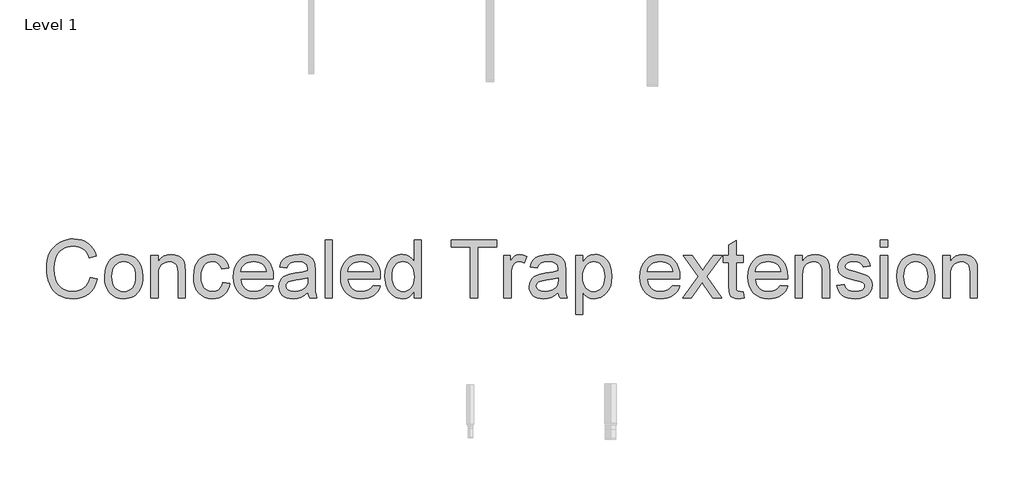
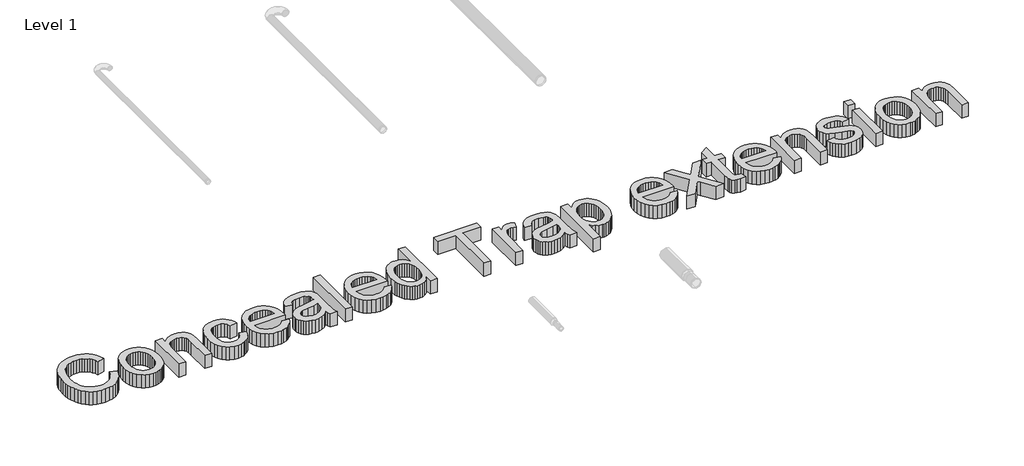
# One storey, part 28 of 29: 1 proxy.
"""IFC4 building model written with IfcOpenShell, lengths in millimetres."""

from ifc_helpers import new_model, si_unit, origin, origin_with_axes, place, context, project, spatial, polyline, outline, extrude, element, save

model = new_model("IFC4")

# Units and contexts
model_context = context("Model", 3, world=origin())
ifc_project = project(units=[si_unit("LENGTHUNIT", "METRE", prefix="MILLI")], contexts=[model_context])

# Site, building, storey
site = spatial("IfcSite", under=ifc_project)
building = spatial("IfcBuilding", under=site)
storey = spatial("IfcBuildingStorey", under=building, Name="Level 1", Elevation=0.0)

# Proxy
placement = place(None, origin())
element("IfcBuildingElementProxy", 1, Name="600mm Arial", ObjectType="600mm Arial", at=placement, inside=storey, context=model_context, shape_type="SweptSolid", body=[
    extrude(outline(polyline([(68727.7888256, 21128.215634), (68803.1310582, 21108.7914646), (68788.2226403, 21061.937094), (68768.3662097, 21020.9964265), (68743.5617661, 20985.969462), (68713.8093098, 20956.8562006), (68679.7802252, 20933.969342), (68642.1458971, 20917.6215858), (68600.9063255, 20907.8129321), (68556.0615102, 20904.5433809), (68510.1176476, 20907.0173873), (68468.6711423, 20914.4394066), (68431.7219944, 20926.8094387), (68399.2702039, 20944.1274836), (68370.8697139, 20966.1360239), (68346.0744674, 20992.5775424), (68324.8844645, 21023.4520388), (68307.2997051, 21058.7595133), (68293.4903347, 21096.9732555), (68283.6264987, 21136.5665553), (68277.7081971, 21177.5394125), (68275.7354299, 21219.8918272), (68277.9657145, 21265.3344506), (68284.6565683, 21307.7788358), (68295.8079913, 21347.2249828), (68311.4199834, 21383.6728914), (68331.1430569, 21416.5201551), (68354.6277238, 21445.1643669), (68381.8739841, 21469.605527), (68412.8818377, 21489.8436352), (68446.5982226, 21505.7131448), (68481.9700764, 21517.0485088), (68518.9973992, 21523.8497272), (68557.680191, 21526.1168), (68600.7729682, 21523.182941), (68640.288093, 21514.3813643), (68676.2255654, 21499.7120698), (68708.5853854, 21479.1750574), (68736.8341241, 21453.3129531), (68760.4383527, 21422.6683829), (68779.398071, 21387.2413468), (68793.7132791, 21347.0318447), (68718.3710465, 21329.0792033), (68706.5068522, 21358.7074995), (68692.2514249, 21384.0223793), (68675.6047646, 21405.0238427), (68656.5668713, 21421.7118897), (68635.0273805, 21434.4268112), (68610.8759275, 21443.5088979), (68584.1125124, 21448.95815), (68554.7371351, 21450.7745673), (68520.9379768, 21448.7604134), (68490.0266921, 21442.7179517), (68462.0032811, 21432.647182), (68436.8677438, 21418.5481046), (68414.9373784, 21401.0553157), (68396.529483, 21380.8034119), (68381.6440578, 21357.7923931), (68370.2811027, 21332.0222593), (68355.8785226, 21276.8767482), (68351.0776625, 21220.03898), (68356.7614394, 21150.4357065), (68363.8661604, 21119.1657369), (68373.8127698, 21090.2502121), (68386.7622161, 21064.2639476), (68402.8754475, 21041.7817592), (68422.152464, 21022.8036468), (68444.5932657, 21007.3296104), (68469.1080022, 20995.3228617), (68494.6068229, 20986.7466127), (68521.0897281, 20981.6008633), (68548.5567175, 20979.8856135), (68581.3120107, 20982.2216642), (68611.4461446, 20989.2298162), (68638.9591193, 21000.9100695), (68663.8509348, 21017.2624242), (68685.5329799, 21038.2133039), (68703.4166434, 21063.689132), (68717.5019253, 21093.6899087), (68727.7888256, 21128.215634)])), origin_with_axes(), (0.0, 0.0, 1.0), 150.0),
    extrude(outline(polyline([(68878.4732908, 21135.2789683), (68882.5475839, 21192.6041802), (68894.7704632, 21242.0015351), (68915.1419287, 21283.471033), (68943.6619804, 21317.0126739), (68972.3751701, 21338.4509972), (69004.068204, 21353.7640852), (69038.741082, 21362.951938), (69076.3938042, 21366.0145557), (69117.9598712, 21362.2851519), (69155.5436155, 21351.0969408), (69189.1450372, 21332.4499221), (69218.7641364, 21306.344096), (69242.938582, 21273.6623793), (69260.2060431, 21235.2876887), (69270.5665198, 21191.2200242), (69274.020012, 21141.4593858), (69272.4933017, 21101.1303221), (69267.9131709, 21065.344601), (69260.2796195, 21034.1022226), (69249.5926475, 21007.4031868), (69235.9856123, 20984.3415842), (69219.5918708, 20964.0115054), (69200.4114233, 20946.4129505), (69178.4442697, 20931.5459194), (69154.5457356, 20919.7323088), (69129.5711466, 20911.2940155), (69103.5205028, 20906.2310396), (69076.3938042, 20904.5433809), (69034.220732, 20908.2589891), (68996.2874998, 20919.4058135), (68962.5941075, 20937.9838543), (68933.1405553, 20963.9931113), (68909.2236271, 20996.9921263), (68892.1401069, 21036.5394408), (68881.8899948, 21082.6350548), (68878.4732908, 21135.2789683)]), holes=[polyline([(68953.8155234, 21135.4261211), (68955.9952242, 21098.8816434), (68962.5343267, 21067.2391933), (68973.4328308, 21040.4987707), (68988.6907366, 21018.6603758), (69007.2503832, 21001.6964173), (69028.0541101, 20989.5793041), (69051.1019171, 20982.3090362), (69076.3938042, 20979.8856135), (69101.5569327, 20982.3228317), (69124.5127692, 20989.6344864), (69145.2613137, 21001.8205775), (69163.8025663, 21018.881105), (69179.060472, 21040.9356306), (69189.9589761, 21068.103716), (69196.4980786, 21100.385361), (69198.6777794, 21137.7805658), (69196.484283, 21173.1662153), (69189.9037938, 21203.9809309), (69178.9363119, 21230.2247127), (69163.5818371, 21251.8975608), (69144.9716066, 21268.8615193), (69124.2368577, 21280.9786325), (69101.3775902, 21288.2489004), (69076.3938042, 21290.672323), (69051.1019171, 21288.2580975), (69028.0541101, 21281.0154207), (69007.2503832, 21268.9442927), (68988.6907366, 21252.0447135), (68973.4328308, 21230.270698), (68962.5343267, 21203.5762607), (68955.9952242, 21171.9614017), (68953.8155234, 21135.4261211)])]), origin_with_axes(), (0.0, 0.0, 1.0), 150.0),
    extrude(outline(polyline([(69358.7800237, 20913.96116), (69358.7800237, 21356.5967766), (69434.1222563, 21356.5967766), (69434.1222563, 21294.7926014), (69460.2970603, 21325.9522064), (69491.7325768, 21348.2090671), (69528.4288058, 21361.5631835), (69570.3857473, 21366.0145557), (69607.5234348, 21362.4277062), (69641.5341252, 21351.6671578), (69669.897827, 21335.0756799), (69690.0945486, 21313.9960415), (69703.7981529, 21288.4834252), (69712.6825031, 21258.5930131), (69716.6556286, 21185.752378), (69716.6556286, 20913.96116), (69641.313396, 20913.96116), (69641.313396, 21175.598835), (69639.1428922, 21214.5575382), (69632.6313809, 21242.2590525), (69620.6200338, 21262.1062861), (69601.9500225, 21277.5021476), (69578.0192987, 21287.3797792), (69550.225814, 21290.672323), (69527.3481524, 21288.823716), (69506.0983687, 21283.2778949), (69486.4764628, 21274.0348598), (69468.4824347, 21261.0946106), (69453.4498567, 21242.9856194), (69442.7123009, 21218.2363582), (69436.2697675, 21186.846827), (69434.1222563, 21148.8170257), (69434.1222563, 20913.96116), (69358.7800237, 20913.96116)])), origin_with_axes(), (0.0, 0.0, 1.0), 150.0),
    extrude(outline(polyline([(70102.7845708, 21074.0634043), (70178.1268034, 21064.6456252), (70169.9322319, 21029.0944289), (70157.1207415, 20997.6359198), (70139.6923319, 20970.2700979), (70117.6470034, 20946.9969631), (70091.9136578, 20928.4235209), (70063.4211973, 20915.1567765), (70032.1696218, 20907.1967298), (69998.1589313, 20904.5433809), (69955.9030857, 20908.2451935), (69918.0158387, 20919.3506312), (69884.4971904, 20937.8596941), (69855.3471408, 20963.7723821), (69831.7521093, 20996.6012517), (69814.8985154, 21035.8588591), (69804.7863591, 21081.5452044), (69801.4156403, 21133.6602875), (69807.1729935, 21200.7067811), (69814.3696851, 21230.8777033), (69824.4450532, 21258.8137423), (69837.4680758, 21283.9538781), (69853.5077308, 21305.7370907), (69872.5640182, 21324.1633802), (69894.6369379, 21339.2327464), (69918.7286101, 21350.949788), (69943.8411547, 21359.3191033), (69969.974572, 21364.3406926), (69997.1288617, 21366.0145557), (70030.5555395, 21363.7152932), (70060.790841, 21356.8175058), (70087.8347662, 21345.3211934), (70111.687315, 21329.2263561), (70131.9438174, 21308.9008759), (70148.1996031, 21284.7126347), (70160.454672, 21256.6616326), (70168.7090243, 21224.7478695), (70093.3667917, 21215.3300904), (70079.6999756, 21248.2003467), (70058.4180021, 21271.7631885), (70030.6980938, 21285.9450394), (69997.7174729, 21290.672323), (69972.1174846, 21288.3454694), (69949.0282909, 21281.3649086), (69928.4498918, 21269.7306405), (69910.3822873, 21253.4426651), (69895.671606, 21232.1239035), (69885.1639765, 21205.3972766), (69878.8593988, 21173.2627843), (69876.7578729, 21135.7204267), (69878.8134136, 21097.6124505), (69884.9800355, 21065.1054777), (69895.2577388, 21038.1995083), (69909.6465233, 21016.8945422), (69927.3554428, 21000.7031359), (69947.5935511, 20989.1378457), (69970.3608481, 20982.1986716), (69995.6573338, 20979.8856135), (70034.6712194, 20985.6613608), (70051.5432074, 20992.881045), (70066.6585588, 21002.9886028), (70079.5942095, 21016.0943989), (70089.927095, 21032.3087978), (70097.6572155, 21051.6317996), (70102.7845708, 21074.0634043)])), origin_with_axes(), (0.0, 0.0, 1.0), 150.0),
    extrude(outline(polyline([(70553.9550496, 21045.8100671), (70627.8257543, 21036.392288), (70616.4995874, 21006.8053785), (70601.2094919, 20980.7317421), (70581.955468, 20958.1713788), (70558.7375156, 20939.1242885), (70531.794758, 20923.9951414), (70501.3663184, 20913.1886078), (70467.452197, 20906.7046876), (70430.0523937, 20904.5433809), (70383.3037891, 20908.2727846), (70341.6503502, 20919.4609958), (70305.092077, 20938.1080144), (70273.6289693, 20964.2138405), (70248.3278851, 20997.0519071), (70230.2556821, 21035.8956473), (70219.4123603, 21080.745061), (70215.7979197, 21131.6001483), (70219.4491485, 21184.1796825), (70230.4028349, 21230.5236168), (70248.6589789, 21270.6319514), (70274.2175805, 21304.5046861), (70305.5979147, 21331.415254), (70341.3192564, 21350.6370883), (70381.3816057, 21362.1701888), (70425.7849625, 21366.0145557), (70468.7581781, 21362.1793859), (70507.6203124, 21350.6738765), (70542.3713653, 21331.4980275), (70573.011337, 21304.6518389), (70598.0227141, 21270.8526806), (70615.8879835, 21230.8179224), (70626.6071452, 21184.5475645), (70630.180199, 21132.0416067), (70629.7387407, 21111.7345206), (70291.1401523, 21111.7345206), (70295.5041525, 21081.6693645), (70304.181569, 21055.3382107), (70317.172402, 21032.7410592), (70334.4766513, 21013.8779099), (70355.1378239, 20999.0062802), (70378.1994265, 20988.3836876), (70403.661459, 20982.010132), (70431.5239217, 20979.8856135), (70471.6230591, 20983.8219509), (70505.3946263, 20995.6309629), (70532.8386231, 21016.0484136), (70553.9550496, 21045.8100671)]), holes=[polyline([(70291.1401523, 21187.0767532), (70554.8379664, 21187.0767532), (70544.6476352, 21226.8815851), (70535.8828466, 21242.534964), (70524.6716428, 21255.3556515), (70504.1254334, 21270.8066953), (70480.7465326, 21281.8431552), (70454.5349405, 21288.4650311), (70425.4906569, 21290.672323), (70398.9985548, 21288.911088), (70374.7045475, 21283.6273828), (70352.6086352, 21274.8212076), (70332.7108177, 21262.4925622), (70316.0135737, 21247.2116638), (70303.5193814, 21229.5487295), (70295.228241, 21209.5037593), (70291.1401523, 21187.0767532)])]), origin_with_axes(), (0.0, 0.0, 1.0), 150.0),
    extrude(outline(polyline([(70988.055804, 20970.4678344), (70952.0585507, 20939.602535), (70914.9944397, 20919.4058135), (70876.0173423, 20908.2589891), (70834.28113, 20904.5433809), (70800.7348905, 20906.778264), (70771.3181265, 20913.4829134), (70746.0308379, 20924.657329), (70724.8730246, 20940.3015108), (70708.1665835, 20959.4221775), (70696.2334113, 20981.0260477), (70689.073508, 21005.1131213), (70686.6868735, 21031.6833984), (70690.2921171, 21062.9165798), (70701.1078477, 21091.2802817), (70717.7912962, 21115.5604933), (70738.9996932, 21134.5432043), (70763.9236984, 21148.8906021), (70791.7539713, 21159.2648744), (70856.9426609, 21170.5956398), (70933.9771507, 21182.5150165), (70987.6143456, 21196.4945323), (70988.055804, 21213.2699513), (70982.8686678, 21246.8943656), (70976.3847477, 21259.3471712), (70967.3072594, 21268.8937089), (70951.6170923, 21278.4218526), (70932.5056227, 21285.2276695), (70884.0187757, 21290.672323), (70839.1371723, 21287.0486854), (70807.7936263, 21276.1777724), (70786.4196824, 21256.0730214), (70771.4468852, 21224.7478695), (70696.1046526, 21234.1656486), (70709.1828575, 21275.368432), (70728.6989974, 21307.7420476), (70756.474088, 21332.5005059), (70794.3291453, 21350.8578175), (70840.6270944, 21362.2253711), (70893.7308604, 21366.0145557), (70944.6641226, 21362.6668295), (70985.0391716, 21352.623651), (71015.4814067, 21337.5220951), (71036.6162273, 21318.9992367), (71050.6325313, 21296.0985825), (71059.7192166, 21267.8636393), (71063.3980366, 21201.9391858), (71063.3980366, 21108.2028534), (71067.2240093, 20977.3104396), (71072.889392, 20944.9552181), (71082.2335947, 20913.96116), (71006.8913621, 20913.96116), (70994.8248327, 20940.154358), (70988.055804, 20970.4678344)]), holes=[polyline([(70988.055804, 21121.1522997), (70937.4352414, 21108.6075236), (70866.5075928, 21098.0493104), (70801.6867852, 21085.8356281), (70784.8193957, 21077.4847068), (70772.329802, 21065.9700004), (70764.6042801, 21052.1744256), (70762.0291061, 21036.9808992), (70767.6393065, 21014.5768857), (70784.4699078, 20996.2195741), (70812.153028, 20983.9691037), (70850.320785, 20979.8856135), (70890.7878044, 20984.392168), (70926.5459344, 20997.9118313), (70955.5350356, 21017.8326413), (70975.6949689, 21041.5426359), (70984.6345014, 21065.9700004), (70987.6143456, 21099.8151439), (70988.055804, 21121.1522997)])]), origin_with_axes(), (0.0, 0.0, 1.0), 150.0),
    extrude(outline(polyline([(71166.9936064, 20913.96116), (71166.9936064, 21516.6990209), (71242.335839, 21516.6990209), (71242.335839, 20913.96116), (71166.9936064, 20913.96116)])), origin_with_axes(), (0.0, 0.0, 1.0), 150.0),
    extrude(outline(polyline([(71665.2529807, 21045.8100671), (71739.1236853, 21036.392288), (71727.7975184, 21006.8053785), (71712.507423, 20980.7317421), (71693.253399, 20958.1713788), (71670.0354466, 20939.1242885), (71643.092689, 20923.9951414), (71612.6642495, 20913.1886078), (71578.750128, 20906.7046876), (71541.3503247, 20904.5433809), (71494.6017202, 20908.2727846), (71452.9482813, 20919.4609958), (71416.390008, 20938.1080144), (71384.9269004, 20964.2138405), (71359.6258161, 20997.0519071), (71341.5536131, 21035.8956473), (71330.7102913, 21080.745061), (71327.0958507, 21131.6001483), (71330.7470795, 21184.1796825), (71341.7007659, 21230.5236168), (71359.9569099, 21270.6319514), (71385.5155115, 21304.5046861), (71416.8958457, 21331.415254), (71452.6171875, 21350.6370883), (71492.6795367, 21362.1701888), (71537.0828936, 21366.0145557), (71580.0561091, 21362.1793859), (71618.9182434, 21350.6738765), (71653.6692964, 21331.4980275), (71684.309268, 21304.6518389), (71709.3206452, 21270.8526806), (71727.1859146, 21230.8179224), (71737.9050762, 21184.5475645), (71741.4781301, 21132.0416067), (71741.0366717, 21111.7345206), (71402.4380833, 21111.7345206), (71406.8020835, 21081.6693645), (71415.4795001, 21055.3382107), (71428.470333, 21032.7410592), (71445.7745824, 21013.8779099), (71466.4357549, 20999.0062802), (71489.4973575, 20988.3836876), (71514.9593901, 20982.010132), (71542.8218527, 20979.8856135), (71582.9209902, 20983.8219509), (71616.6925573, 20995.6309629), (71644.1365542, 21016.0484136), (71665.2529807, 21045.8100671)]), holes=[polyline([(71402.4380833, 21187.0767532), (71666.1358975, 21187.0767532), (71655.9455662, 21226.8815851), (71647.1807777, 21242.534964), (71635.9695739, 21255.3556515), (71615.4233644, 21270.8066953), (71592.0444636, 21281.8431552), (71565.8328715, 21288.4650311), (71536.788588, 21290.672323), (71510.2964858, 21288.911088), (71486.0024785, 21283.6273828), (71463.9065662, 21274.8212076), (71444.0087488, 21262.4925622), (71427.3115047, 21247.2116638), (71414.8173125, 21229.5487295), (71406.526172, 21209.5037593), (71402.4380833, 21187.0767532)])]), origin_with_axes(), (0.0, 0.0, 1.0), 150.0),
    extrude(outline(polyline([(72089.9359559, 20913.96116), (72089.9359559, 20985.0359615), (72067.3939867, 20949.8204575), (72040.0879456, 20924.666526), (72008.0178326, 20909.5741672), (71971.1836479, 20904.5433809), (71946.314825, 20906.3643968), (71922.4760717, 20911.8274444), (71899.667388, 20920.9325238), (71877.8887739, 20933.6796349), (71857.8208111, 20949.6871002), (71840.1440812, 20968.5732422), (71824.8585843, 20990.3380607), (71811.9643204, 21014.9815559), (71801.7280038, 21042.0346781), (71794.4163492, 21071.0283778), (71788.5670255, 21134.8375099), (71793.9564967, 21197.8556957), (71810.1249104, 21254.7670403), (71822.2466221, 21280.1233068), (71837.0538724, 21302.3341823), (71854.5466613, 21321.3996667), (71874.7249887, 21337.31976), (71896.8760834, 21349.8737331), (71920.2871738, 21358.8408567), (71944.9582601, 21364.2211309), (71970.8893423, 21366.0145557), (72007.7511182, 21360.8826018), (72040.345463, 21345.4867403), (72067.9734008, 21321.8871103), (72089.9359559, 21292.143851), (72089.9359559, 21516.6990209), (72165.2781885, 21516.6990209), (72165.2781885, 20913.96116), (72089.9359559, 20913.96116)]), holes=[polyline([(71863.9092581, 21135.1318155), (71866.0337766, 21098.5965348), (71872.4073322, 21066.9816759), (71883.0299248, 21040.2872386), (71897.9015544, 21018.513223), (71915.6610577, 21001.6136439), (71934.9472713, 20989.5425159), (71955.7601952, 20982.2998391), (71978.0998294, 20979.8856135), (72000.5452296, 20982.1894745), (72021.2339933, 20989.1010575), (72040.1661205, 21000.6203625), (72057.3416111, 21016.7473894), (72071.601637, 21037.6108971), (72081.7873697, 21063.3396441), (72087.8988094, 21093.9336305), (72089.9359559, 21129.3928564), (72087.8620212, 21168.2687862), (72081.6402169, 21201.608092), (72071.2705432, 21229.4107738), (72056.7529999, 21251.6768316), (72039.2004303, 21268.7373591), (72019.7256771, 21280.9234502), (71998.3287406, 21288.2351048), (71975.0096206, 21290.672323), (71952.2285281, 21288.3316738), (71931.4156042, 21281.3097263), (71912.570849, 21269.6064803), (71895.6942625, 21253.2219359), (71881.788323, 21231.7974082), (71871.8555092, 21204.9742123), (71865.8958208, 21172.752348), (71863.9092581, 21135.1318155)])]), origin_with_axes(), (0.0, 0.0, 1.0), 150.0),
    extrude(outline(polyline([(72673.8382587, 20913.96116), (72673.8382587, 21441.3567883), (72476.064898, 21441.3567883), (72476.064898, 21516.6990209), (72946.9538519, 21516.6990209), (72946.9538519, 21441.3567883), (72749.1804913, 21441.3567883), (72749.1804913, 20913.96116), (72673.8382587, 20913.96116)])), origin_with_axes(), (0.0, 0.0, 1.0), 150.0),
    extrude(outline(polyline([(73022.2960845, 20913.96116), (73022.2960845, 21356.5967766), (73088.220538, 21356.5967766), (73088.220538, 21291.1137814), (73112.5743261, 21329.0792033), (73135.0151278, 21351.4464286), (73157.5295059, 21362.3725239), (73182.1040232, 21366.0145557), (73219.6279867, 21360.2020201), (73257.7405614, 21342.7644136), (73232.5774329, 21275.2212792), (73206.0899293, 21286.8095621), (73179.6024256, 21290.672323), (73157.1064416, 21286.9567149), (73137.0016906, 21275.8098904), (73120.7597005, 21258.0779783), (73109.8519993, 21234.607107), (73100.6917377, 21192.5214067), (73097.6383171, 21146.6097337), (73097.6383171, 20913.96116), (73022.2960845, 20913.96116)])), origin_with_axes(), (0.0, 0.0, 1.0), 150.0),
    extrude(outline(polyline([(73587.3628291, 20970.4678344), (73551.3655759, 20939.602535), (73514.3014648, 20919.4058135), (73475.3243674, 20908.2589891), (73433.5881551, 20904.5433809), (73400.0419157, 20906.778264), (73370.6251516, 20913.4829134), (73345.337863, 20924.657329), (73324.1800497, 20940.3015108), (73307.4736086, 20959.4221775), (73295.5404364, 20981.0260477), (73288.3805331, 21005.1131213), (73285.9938986, 21031.6833984), (73289.5991422, 21062.9165798), (73300.4148728, 21091.2802817), (73317.0983213, 21115.5604933), (73338.3067183, 21134.5432043), (73363.2307235, 21148.8906021), (73391.0609965, 21159.2648744), (73456.249686, 21170.5956398), (73533.2841758, 21182.5150165), (73586.9213707, 21196.4945323), (73587.3628291, 21213.2699513), (73582.1756929, 21246.8943656), (73575.6917728, 21259.3471712), (73566.6142846, 21268.8937089), (73550.9241175, 21278.4218526), (73531.8126478, 21285.2276695), (73483.3258008, 21290.672323), (73438.4441974, 21287.0486854), (73407.1006514, 21276.1777724), (73385.7267075, 21256.0730214), (73370.7539103, 21224.7478695), (73295.4116777, 21234.1656486), (73308.4898826, 21275.368432), (73328.0060225, 21307.7420476), (73355.7811131, 21332.5005059), (73393.6361704, 21350.8578175), (73439.9341195, 21362.2253711), (73493.0378855, 21366.0145557), (73543.9711477, 21362.6668295), (73584.3461967, 21352.623651), (73614.7884318, 21337.5220951), (73635.9232524, 21318.9992367), (73649.9395565, 21296.0985825), (73659.0262417, 21267.8636393), (73662.7050617, 21201.9391858), (73662.7050617, 21108.2028534), (73666.5310344, 20977.3104396), (73672.1964172, 20944.9552181), (73681.5406198, 20913.96116), (73606.1983872, 20913.96116), (73594.1318578, 20940.154358), (73587.3628291, 20970.4678344)]), holes=[polyline([(73587.3628291, 21121.1522997), (73536.7422665, 21108.6075236), (73465.8146179, 21098.0493104), (73400.9938103, 21085.8356281), (73384.1264208, 21077.4847068), (73371.6368271, 21065.9700004), (73363.9113052, 21052.1744256), (73361.3361312, 21036.9808992), (73366.9463317, 21014.5768857), (73383.7769329, 20996.2195741), (73411.4600531, 20983.9691037), (73449.6278101, 20979.8856135), (73490.0948296, 20984.392168), (73525.8529595, 20997.9118313), (73554.8420607, 21017.8326413), (73575.001994, 21041.5426359), (73583.9415265, 21065.9700004), (73586.9213707, 21099.8151439), (73587.3628291, 21121.1522997)])]), origin_with_axes(), (0.0, 0.0, 1.0), 150.0),
    extrude(outline(polyline([(73766.3006315, 20744.4411366), (73766.3006315, 21356.5967766), (73841.6428641, 21356.5967766), (73841.6428641, 21282.7260719), (73866.2173814, 21319.1647836), (73893.7349547, 21345.1924347), (73925.8142646, 21360.8090254), (73964.0739921, 21366.0145557), (73990.3499636, 21364.1935398), (74015.0256485, 21358.7304922), (74038.1010466, 21349.6254128), (74059.5761581, 21336.8783016), (74078.9819333, 21320.8202525), (74095.8493228, 21301.7823593), (74110.1783265, 21279.7646219), (74121.9689445, 21254.7670403), (74137.7510821, 21199.2536472), (74143.0117946, 21138.6634826), (74137.0705004, 21074.2289512), (74129.6438826, 21044.5638668), (74119.2466177, 21016.6002366), (74106.02126, 20991.0692262), (74090.1103637, 20968.7020009), (74071.5139288, 20949.4985607), (74050.2319554, 20933.4589057), (74027.3083086, 20920.8083636), (74003.7868535, 20911.7722621), (73979.6675902, 20906.3506012), (73954.9505187, 20904.5433809), (73920.3144288, 20909.3810291), (73889.3939471, 20923.8939739), (73862.9248376, 20945.8013467), (73841.6428641, 20972.8222792), (73841.6428641, 20744.4411366), (73766.3006315, 20744.4411366)]), holes=[polyline([(73841.6428641, 21131.7473011), (73843.6800107, 21095.4373482), (73849.7914503, 21064.2041668), (73859.9771831, 21038.047757), (73874.2372089, 21016.9681186), (73891.4035025, 21000.7445226), (73910.3080385, 20989.1562398), (73930.950817, 20982.2032701), (73953.3318379, 20979.8856135), (73976.0347555, 20982.2860435), (73997.054613, 20989.4873336), (74016.3914104, 21001.4894837), (74034.0451476, 21018.2924938), (74048.7558289, 21040.1354873), (74059.2634584, 21067.2575874), (74065.5680361, 21099.6587941), (74067.669562, 21137.3391075), (74065.6186199, 21173.3363607), (74059.4657935, 21204.5143598), (74049.2110829, 21230.8731047), (74034.854488, 21252.4125955), (74017.6468077, 21269.1512263), (73998.8388407, 21281.1073912), (73978.430587, 21288.2810901), (73956.4220466, 21290.672323), (73934.4824842, 21288.1293388), (73913.8397057, 21280.5003859), (73894.4937113, 21267.7854644), (73876.4445009, 21249.9845744), (73861.2187848, 21227.336839), (73850.3432733, 21200.0813817), (73843.8179664, 21168.2182024), (73841.6428641, 21131.7473011)])]), origin_with_axes(), (0.0, 0.0, 1.0), 150.0),
    extrude(outline(polyline([(74773.1200759, 21045.8100671), (74846.9907806, 21036.392288), (74835.6646136, 21006.8053785), (74820.3745182, 20980.7317421), (74801.1204943, 20958.1713788), (74777.9025419, 20939.1242885), (74750.9597842, 20923.9951414), (74720.5313447, 20913.1886078), (74686.6172233, 20906.7046876), (74649.21742, 20904.5433809), (74602.4688154, 20908.2727846), (74560.8153765, 20919.4609958), (74524.2571032, 20938.1080144), (74492.7939956, 20964.2138405), (74467.4929114, 20997.0519071), (74449.4207084, 21035.8956473), (74438.5773866, 21080.745061), (74434.962946, 21131.6001483), (74438.6141748, 21184.1796825), (74449.5678612, 21230.5236168), (74467.8240052, 21270.6319514), (74493.3826068, 21304.5046861), (74524.762941, 21331.415254), (74560.4842827, 21350.6370883), (74600.546632, 21362.1701888), (74644.9499888, 21366.0145557), (74687.9232044, 21362.1793859), (74726.7853386, 21350.6738765), (74761.5363916, 21331.4980275), (74792.1763633, 21304.6518389), (74817.1877404, 21270.8526806), (74835.0530098, 21230.8179224), (74845.7721715, 21184.5475645), (74849.3452253, 21132.0416067), (74848.9037669, 21111.7345206), (74510.3051786, 21111.7345206), (74514.6691787, 21081.6693645), (74523.3465953, 21055.3382107), (74536.3374283, 21032.7410592), (74553.6416776, 21013.8779099), (74574.3028502, 20999.0062802), (74597.3644527, 20988.3836876), (74622.8264853, 20982.010132), (74650.6889479, 20979.8856135), (74690.7880854, 20983.8219509), (74724.5596526, 20995.6309629), (74752.0036494, 21016.0484136), (74773.1200759, 21045.8100671)]), holes=[polyline([(74510.3051786, 21187.0767532), (74774.0029927, 21187.0767532), (74763.8126615, 21226.8815851), (74755.0478729, 21242.534964), (74743.8366691, 21255.3556515), (74723.2904597, 21270.8066953), (74699.9115589, 21281.8431552), (74673.6999667, 21288.4650311), (74644.6556832, 21290.672323), (74618.163581, 21288.911088), (74593.8695738, 21283.6273828), (74571.7736614, 21274.8212076), (74551.875844, 21262.4925622), (74535.1786, 21247.2116638), (74522.6844077, 21229.5487295), (74514.3932672, 21209.5037593), (74510.3051786, 21187.0767532)])]), origin_with_axes(), (0.0, 0.0, 1.0), 150.0),
    extrude(outline(polyline([(74877.5985626, 20913.96116), (75038.5837237, 21136.4561907), (74887.0163416, 21356.5967766), (74977.6624653, 21356.5967766), (75050.7974059, 21250.646762), (75084.936855, 21200.6148106), (75114.5145675, 21241.5232885), (75197.8030512, 21356.5967766), (75288.4491748, 21356.5967766), (75129.2298473, 21136.4561907), (75282.5630629, 20913.96116), (75191.9169392, 20913.96116), (75099.6521349, 21047.7230534), (75082.7295631, 21072.1504179), (74968.2446862, 20913.96116), (74877.5985626, 20913.96116)])), origin_with_axes(), (0.0, 0.0, 1.0), 150.0),
    extrude(outline(polyline([(75508.5897607, 20976.7954048), (75518.0075398, 20911.753868), (75461.6480181, 20904.5433809), (75425.485218, 20907.6703779), (75398.5194677, 20917.0513687), (75379.4631804, 20931.5091312), (75367.0287689, 20949.8664427), (75360.1861638, 20981.3939297), (75357.9052955, 21035.3622184), (75357.9052955, 21281.254544), (75301.398621, 21281.254544), (75301.398621, 21356.5967766), (75357.9052955, 21356.5967766), (75357.9052955, 21464.165472), (75433.2475281, 21508.4584642), (75433.2475281, 21356.5967766), (75508.5897607, 21356.5967766), (75508.5897607, 21281.254544), (75433.2475281, 21281.254544), (75433.2475281, 21037.5695104), (75437.2206536, 20998.7211717), (75450.0965235, 20984.9623851), (75460.9674364, 20981.1548064), (75475.7746867, 20979.8856135), (75508.5897607, 20976.7954048)])), origin_with_axes(), (0.0, 0.0, 1.0), 150.0),
    extrude(outline(polyline([(75893.835786, 21045.8100671), (75967.7064907, 21036.392288), (75956.3803237, 21006.8053785), (75941.0902283, 20980.7317421), (75921.8362044, 20958.1713788), (75898.618252, 20939.1242885), (75871.6754944, 20923.9951414), (75841.2470548, 20913.1886078), (75807.3329334, 20906.7046876), (75769.9331301, 20904.5433809), (75723.1845255, 20908.2727846), (75681.5310866, 20919.4609958), (75644.9728134, 20938.1080144), (75613.5097057, 20964.2138405), (75588.2086215, 20997.0519071), (75570.1364185, 21035.8956473), (75559.2930967, 21080.745061), (75555.6786561, 21131.6001483), (75559.3298849, 21184.1796825), (75570.2835713, 21230.5236168), (75588.5397153, 21270.6319514), (75614.0983169, 21304.5046861), (75645.4786511, 21331.415254), (75681.1999928, 21350.6370883), (75721.2623421, 21362.1701888), (75765.6656989, 21366.0145557), (75808.6389145, 21362.1793859), (75847.5010487, 21350.6738765), (75882.2521017, 21331.4980275), (75912.8920734, 21304.6518389), (75937.9034505, 21270.8526806), (75955.7687199, 21230.8179224), (75966.4878816, 21184.5475645), (75970.0609354, 21132.0416067), (75969.619477, 21111.7345206), (75631.0208887, 21111.7345206), (75635.3848889, 21081.6693645), (75644.0623054, 21055.3382107), (75657.0531384, 21032.7410592), (75674.3573877, 21013.8779099), (75695.0185603, 20999.0062802), (75718.0801628, 20988.3836876), (75743.5421954, 20982.010132), (75771.404658, 20979.8856135), (75811.5037955, 20983.8219509), (75845.2753627, 20995.6309629), (75872.7193595, 21016.0484136), (75893.835786, 21045.8100671)]), holes=[polyline([(75631.0208887, 21187.0767532), (75894.7187028, 21187.0767532), (75884.5283716, 21226.8815851), (75875.763583, 21242.534964), (75864.5523792, 21255.3556515), (75844.0061698, 21270.8066953), (75820.627269, 21281.8431552), (75794.4156768, 21288.4650311), (75765.3713933, 21290.672323), (75738.8792911, 21288.911088), (75714.5852839, 21283.6273828), (75692.4893716, 21274.8212076), (75672.5915541, 21262.4925622), (75655.8943101, 21247.2116638), (75643.4001178, 21229.5487295), (75635.1089774, 21209.5037593), (75631.0208887, 21187.0767532)])]), origin_with_axes(), (0.0, 0.0, 1.0), 150.0),
    extrude(outline(polyline([(76045.4031681, 20913.96116), (76045.4031681, 21356.5967766), (76120.7454007, 21356.5967766), (76120.7454007, 21294.7926014), (76146.9202046, 21325.9522064), (76178.3557211, 21348.2090671), (76215.0519501, 21361.5631835), (76257.0088917, 21366.0145557), (76294.1465791, 21362.4277062), (76328.1572695, 21351.6671578), (76356.5209714, 21335.0756799), (76376.7176929, 21313.9960415), (76390.4212972, 21288.4834252), (76399.3056474, 21258.5930131), (76403.278773, 21185.752378), (76403.278773, 20913.96116), (76327.9365403, 20913.96116), (76327.9365403, 21175.598835), (76325.7660366, 21214.5575382), (76319.2545253, 21242.2590525), (76307.2431781, 21262.1062861), (76288.5731669, 21277.5021476), (76264.6424431, 21287.3797792), (76236.8489583, 21290.672323), (76213.9712968, 21288.823716), (76192.721513, 21283.2778949), (76173.0996071, 21274.0348598), (76155.105579, 21261.0946106), (76140.073001, 21242.9856194), (76129.3354453, 21218.2363582), (76122.8929118, 21186.846827), (76120.7454007, 21148.8170257), (76120.7454007, 20913.96116), (76045.4031681, 20913.96116)])), origin_with_axes(), (0.0, 0.0, 1.0), 150.0),
    extrude(outline(polyline([(76478.6210056, 21045.8100671), (76553.9632382, 21055.2278461), (76558.5157779, 21038.047757), (76565.8458266, 21023.0013834), (76575.9533844, 21010.0887253), (76588.8384513, 20999.3097829), (76604.5378155, 20990.8117088), (76623.0882651, 20984.7416559), (76668.7424207, 20979.8856135), (76713.8447533, 20984.3369857), (76731.3743304, 20989.9012008), (76745.5561813, 20997.6911021), (76764.318163, 21017.041695), (76769.0086585, 21027.8758198), (76770.5721569, 21039.4824967), (76768.9994614, 21049.6544339), (76764.2813748, 21058.6859369), (76745.4090285, 21073.3276403), (76717.1924794, 21082.8925722), (76667.8595039, 21094.8119488), (76599.102359, 21114.6959707), (76554.4046966, 21131.6737247), (76525.6915069, 21150.1965832), (76504.88778, 21174.7159182), (76492.2510335, 21203.6682312), (76488.0387846, 21235.4900238), (76491.423299, 21264.6814601), (76501.5768421, 21291.6288162), (76517.5797089, 21315.2652344), (76538.5121944, 21334.5238569), (76559.3159212, 21346.6455686), (76586.4104302, 21356.8175058), (76617.735582, 21363.7152932), (76651.2312377, 21366.0145557), (76700.2699077, 21362.3173416), (76742.9074309, 21351.2256994), (76777.1940329, 21333.8248811), (76801.1799389, 21311.2001384), (76817.0724411, 21281.6776083), (76827.0788314, 21243.5834277), (76751.7365988, 21234.1656486), (76742.2268492, 21257.8756432), (76723.4096852, 21275.736314), (76695.1011656, 21286.9383208), (76657.1173496, 21290.672323), (76613.854427, 21287.1038677), (76585.0124786, 21276.3985016), (76568.7888826, 21260.9474578), (76563.3810173, 21243.1419693), (76565.6250974, 21231.5536864), (76572.3573379, 21221.2162024), (76583.8720444, 21211.9823643), (76600.4635224, 21204.5879362), (76665.3579063, 21188.5482812), (76775.9432341, 21153.0844568), (76805.1530645, 21136.1250969), (76827.2995606, 21112.911743), (76841.2606823, 21083.3708188), (76845.9143896, 21047.4287478), (76840.4513419, 21010.2726663), (76824.062199, 20975.3238768), (76797.3723603, 20945.3231001), (76761.0072251, 20923.0110571), (76717.0821148, 20909.1602999), (76667.7123511, 20904.5433809), (76627.1625582, 20906.769067), (76591.7447191, 20913.4461252), (76561.4588338, 20924.5745555), (76536.3049024, 20940.154358), (76515.758693, 20960.1119563), (76499.2959737, 20984.3737739), (76486.9167446, 21012.9398108), (76478.6210056, 21045.8100671)])), origin_with_axes(), (0.0, 0.0, 1.0), 150.0),
    extrude(outline(polyline([(76930.6744012, 21441.3567883), (76930.6744012, 21516.6990209), (77006.0166339, 21516.6990209), (77006.0166339, 21441.3567883), (76930.6744012, 21441.3567883)])), origin_with_axes(), (0.0, 0.0, 1.0), 150.0),
    extrude(outline(polyline([(76930.6744012, 20913.96116), (76930.6744012, 21356.5967766), (77006.0166339, 21356.5967766), (77006.0166339, 20913.96116), (76930.6744012, 20913.96116)])), origin_with_axes(), (0.0, 0.0, 1.0), 150.0),
    extrude(outline(polyline([(77100.1944246, 21135.2789683), (77104.2687177, 21192.6041802), (77116.491597, 21242.0015351), (77136.8630625, 21283.471033), (77165.3831142, 21317.0126739), (77194.0963039, 21338.4509972), (77225.7893378, 21353.7640852), (77260.4622158, 21362.951938), (77298.114938, 21366.0145557), (77339.681005, 21362.2851519), (77377.2647493, 21351.0969408), (77410.866171, 21332.4499221), (77440.4852702, 21306.344096), (77464.6597158, 21273.6623793), (77481.9271769, 21235.2876887), (77492.2876536, 21191.2200242), (77495.7411458, 21141.4593858), (77494.2144356, 21101.1303221), (77489.6343047, 21065.344601), (77482.0007533, 21034.1022226), (77471.3137814, 21007.4031868), (77457.7067461, 20984.3415842), (77441.3130047, 20964.0115054), (77422.1325571, 20946.4129505), (77400.1654035, 20931.5459194), (77376.2668694, 20919.7323088), (77351.2922804, 20911.2940155), (77325.2416366, 20906.2310396), (77298.114938, 20904.5433809), (77255.9418658, 20908.2589891), (77218.0086336, 20919.4058135), (77184.3152413, 20937.9838543), (77154.8616891, 20963.9931113), (77130.9447609, 20996.9921263), (77113.8612407, 21036.5394408), (77103.6111287, 21082.6350548), (77100.1944246, 21135.2789683)]), holes=[polyline([(77175.5366572, 21135.4261211), (77177.7163581, 21098.8816434), (77184.2554605, 21067.2391933), (77195.1539646, 21040.4987707), (77210.4118704, 21018.6603758), (77228.971517, 21001.6964173), (77249.7752439, 20989.5793041), (77272.8230509, 20982.3090362), (77298.114938, 20979.8856135), (77323.2780665, 20982.3228317), (77346.233903, 20989.6344864), (77366.9824475, 21001.8205775), (77385.5237001, 21018.881105), (77400.7816058, 21040.9356306), (77411.6801099, 21068.103716), (77418.2192124, 21100.385361), (77420.3989132, 21137.7805658), (77418.2054168, 21173.1662153), (77411.6249276, 21203.9809309), (77400.6574457, 21230.2247127), (77385.3029709, 21251.8975608), (77366.6927405, 21268.8615193), (77345.9579915, 21280.9786325), (77323.098724, 21288.2489004), (77298.114938, 21290.672323), (77272.8230509, 21288.2580975), (77249.7752439, 21281.0154207), (77228.971517, 21268.9442927), (77210.4118704, 21252.0447135), (77195.1539646, 21230.270698), (77184.2554605, 21203.5762607), (77177.7163581, 21171.9614017), (77175.5366572, 21135.4261211)])]), origin_with_axes(), (0.0, 0.0, 1.0), 150.0),
    extrude(outline(polyline([(77580.5011575, 20913.96116), (77580.5011575, 21356.5967766), (77655.8433901, 21356.5967766), (77655.8433901, 21294.7926014), (77682.0181941, 21325.9522064), (77713.4537106, 21348.2090671), (77750.1499396, 21361.5631835), (77792.1068812, 21366.0145557), (77829.2445686, 21362.4277062), (77863.255259, 21351.6671578), (77891.6189608, 21335.0756799), (77911.8156824, 21313.9960415), (77925.5192867, 21288.4834252), (77934.4036369, 21258.5930131), (77938.3767624, 21185.752378), (77938.3767624, 20913.96116), (77863.0345298, 20913.96116), (77863.0345298, 21175.598835), (77860.864026, 21214.5575382), (77854.3525147, 21242.2590525), (77842.3411676, 21262.1062861), (77823.6711563, 21277.5021476), (77799.7404326, 21287.3797792), (77771.9469478, 21290.672323), (77749.0692862, 21288.823716), (77727.8195025, 21283.2778949), (77708.1975966, 21274.0348598), (77690.2035685, 21261.0946106), (77675.1709905, 21242.9856194), (77664.4334347, 21218.2363582), (77657.9909013, 21186.846827), (77655.8433901, 21148.8170257), (77655.8433901, 20913.96116), (77580.5011575, 20913.96116)])), origin_with_axes(), (0.0, 0.0, 1.0), 150.0),
])

save(model, "model.ifc")
